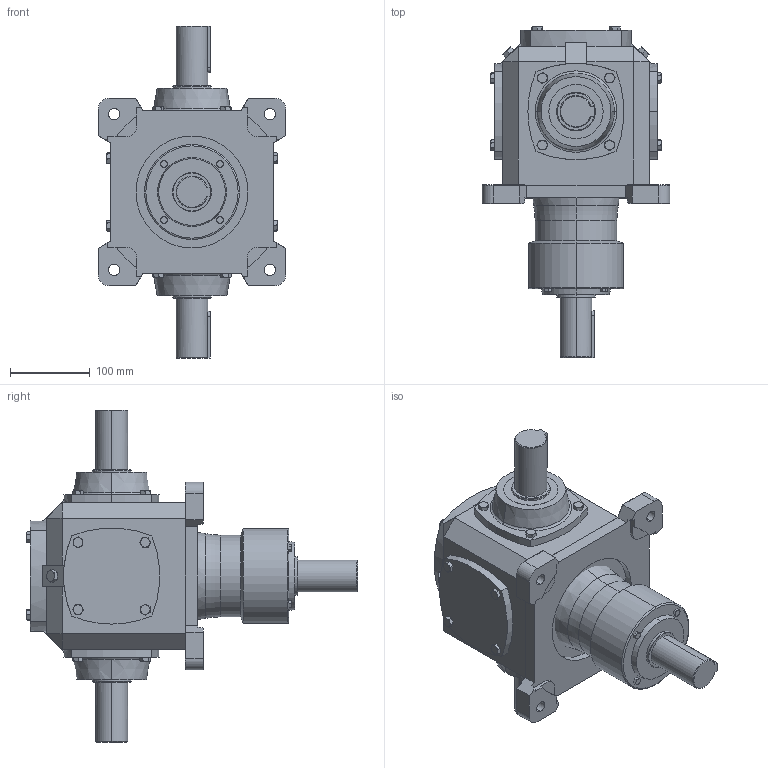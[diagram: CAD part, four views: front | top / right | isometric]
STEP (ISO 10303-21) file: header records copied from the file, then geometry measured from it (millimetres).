
FILE_DESCRIPTION (( 'STEP AP203' ), '1' );
FILE_NAME ('TC8-1-WX1-U1.step', '2018-05-20T03:41:15', ( 'Windows 蚚誧' ), ( '' ), 'SwSTEP 2.0', 'SolidWorks 2016', '' );
FILE_SCHEMA (( 'CONFIG_CONTROL_DESIGN' ));
Length unit declared in the file: millimetre
Products named in the file (1): TC8-1-WX1-U1
Bounding box: 235 x 414.76 x 416 mm (x, y, z)
Volume: 9146012.1 mm3; surface area: 423807.4 mm2
Topology: 2 solids, 2 shells, 604 faces, 1447 edges, 886 vertices
Faces by surface type: plane 300, cone 199, cylinder 93, torus 12
Entity records: 18351 total; most frequent: CARTESIAN_POINT 4717, ORIENTED_EDGE 2894, DIRECTION 2689, EDGE_CURVE 1447, AXIS2_PLACEMENT_3D 986, VERTEX_POINT 886, VECTOR 717, LINE 717
